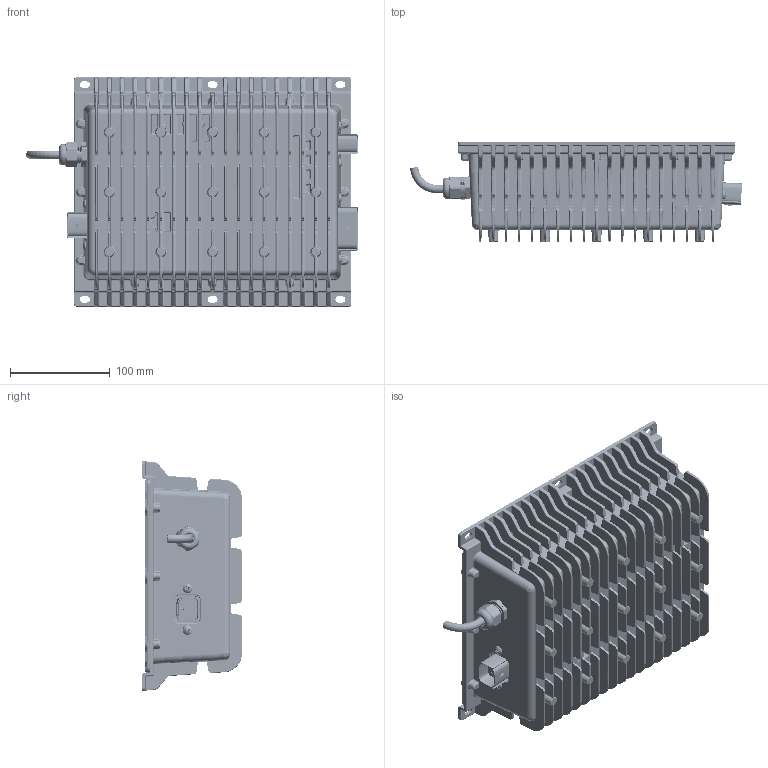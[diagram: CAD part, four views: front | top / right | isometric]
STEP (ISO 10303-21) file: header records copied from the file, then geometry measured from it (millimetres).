
FILE_DESCRIPTION(/* description */ (''),/* implementation_level */ '2;1');
FILE_NAME(/* name */ 'C:\Users\azhao\Documents\P16004\MECHANICAL\Rev 2\AX090550_.stp',/* time_stamp */ '2019-11-19T13:44:58-05:00',/* author */ ('azhao'),/* organization */ (''),/* preprocessor_version */ 'ST-DEVELOPER v17',/* originating_system */ 'Autodesk Inventor 2018',/* authorisation */ '');
FILE_SCHEMA (('AUTOMOTIVE_DESIGN { 1 0 10303 214 3 1 1 }'));
Length unit declared in the file: inch
Products named in the file (1): AX090550
Bounding box: 333.2 x 99.95 x 230.39 mm (x, y, z)
Volume: 1103938.3 mm3; surface area: 562820.7 mm2
Topology: 4 solids, 14 shells, 11256 faces, 29293 edges, 18255 vertices
Faces by surface type: plane 4513, cylinder 3073, bspline 2295, torus 660, cone 417, sphere 298
Full cylindrical faces by diameter (mm): 1.1 x6, 2.794 x9, 2.845 x11, 3.231 x32, 3.683 x72, 3.912 x19, 3.962 x5, 4 x60, 4.496 x12, 4.898 x3, 4.902 x7, 6.807 x1, 8.331 x1, 8.89 x2, 9.474 x6, 9.855 x1, 10.262 x1, 13.614 x1, 13.868 x1, 16.154 x3, 17.094 x1, 18.618 x1, 18.796 x3, 21.692 x1
Entity records: 478384 total; most frequent: CARTESIAN_POINT 201951, ORIENTED_EDGE 58234, DIRECTION 51462, EDGE_CURVE 29117, VERTEX_POINT 18255, AXIS2_PLACEMENT_3D 18049, LINE 15364, VECTOR 15364
